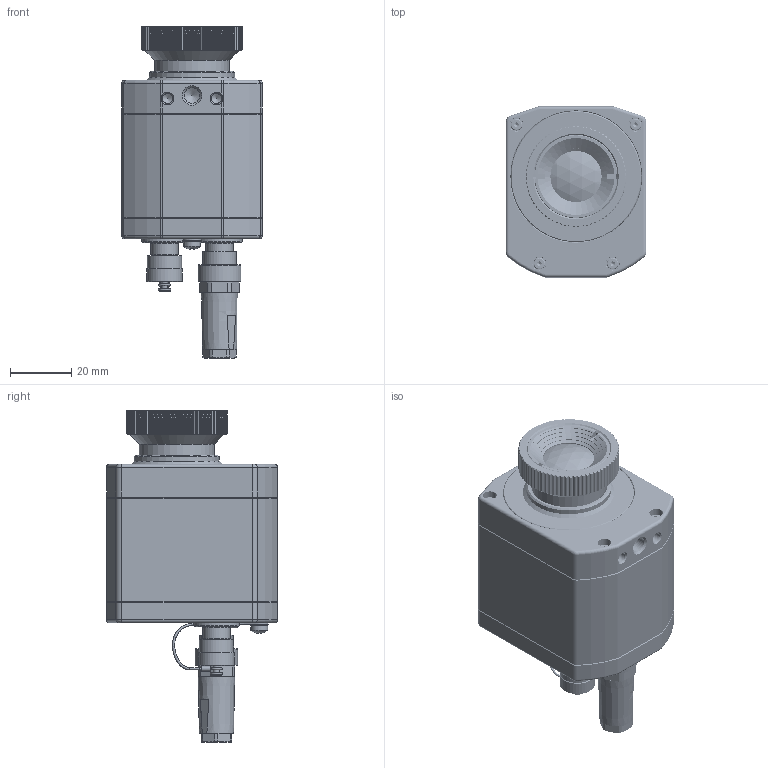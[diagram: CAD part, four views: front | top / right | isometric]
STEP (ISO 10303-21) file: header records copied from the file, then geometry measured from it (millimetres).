
FILE_DESCRIPTION (( 'STEP AP214' ), '1' );
FILE_NAME ('PI-450i2-F5,6.STEP', '2019-12-20T08:46:43', ( 'qwe' ), ( '' ), 'SwSTEP 2.0', 'SolidWorks 2019', '' );
FILE_SCHEMA (( 'AUTOMOTIVE_DESIGN' ));
Length unit declared in the file: millimetre
Products named in the file (25): 51095 Flanschstecker 712; 5-polig; 1P469 Objektivtubus F56-382p17; 51099 Schutzkappe-712 FS_F〉 Pi 640; 63019 O-Ring 19 x 1_O-Ring 16 x 1; 1P202-X Verbindungsrohr-PI3-XXX_1P102-1; 9P468 Objektivgruppe F56-382p17; 61220 Zylinderschraube ISK DIN 912-A2 M2x10_DIN 912 M3 x 5 --- 5S; 1P203-X Heckplatte-PI3-XXX; 51084 Kabeldose 712_4-polig; 61301 Linsenschraube DIN 7985 VZ M3x5_Linsenschraube KS DIN 7985 VZ M3x5; 1P468 Schraubring F56-382p17; 63169-f O-Ring NBR 53 x 1,5; 1R099 Linse2-L5-384-GE; 1P210-4 Objektivhaltering-PI3 M24; PI-450i2-F5,6; 63038 O-Ring 41 x 1_O-Ring 38 x 1,5; 51093 Flanschstecker 712; 5-1polig; 1P470 Linsenring F56-382p17; 54250 Temperaturaufkleber; 63023 O-Ring 23x1_O-Ring 23 x 1; 9P219-X Rückwand PI-3; 1R098 Linse1-L5-384-GE; 61103 Linsenschraube KS DIN 7985 A2 M1,6x4_ISO 7045 - M1.6 x 4 - Z --- 4S; 1P201-X Frontplatte-PI3S-XXX; 63169-ff O-Ring NBR 53 x 1,5
Assembly tree (33 placements, depth 3):
  PI-450i2-F5,6
    1P201-X Frontplatte-PI3S-XXX
    9P219-X Rückwand PI-3
      1P203-X Heckplatte-PI3-XXX
      51093 Flanschstecker 712; 5-1polig
      51095 Flanschstecker 712; 5-polig
      61301 Linsenschraube DIN 7985 VZ M3x5_Linsenschraube KS DIN 7985 VZ M3x5
      54250 Temperaturaufkleber
      51099 Schutzkappe-712 FS_F〉 Pi 640
      63169-f O-Ring NBR 53 x 1,5
    1P202-X Verbindungsrohr-PI3-XXX_1P102-1
    1P210-4 Objektivhaltering-PI3 M24
    61103 Linsenschraube KS DIN 7985 A2 M1,6x4_ISO 7045 - M1.6 x 4 - Z --- 4S  x3
    61220 Zylinderschraube ISK DIN 912-A2 M2x10_DIN 912 M3 x 5 --- 5S  x8
    63038 O-Ring 41 x 1_O-Ring 38 x 1,5
    63169-ff O-Ring NBR 53 x 1,5
    51084 Kabeldose 712_4-polig
    9P468 Objektivgruppe F56-382p17
      1P470 Linsenring F56-382p17
      1P469 Objektivtubus F56-382p17
      1P468 Schraubring F56-382p17
      63023 O-Ring 23x1_O-Ring 23 x 1
      63019 O-Ring 19 x 1_O-Ring 16 x 1
      1R099 Linse2-L5-384-GE
      1R098 Linse1-L5-384-GE
Bounding box: 46 x 56 x 108.75 mm (x, y, z)
Volume: 60287.2 mm3; surface area: 57979.4 mm2
Topology: 31 solids, 42 shells, 2698 faces, 6469 edges, 3914 vertices
Faces by surface type: cylinder 922, cone 888, plane 709, torus 94, bspline 79, sphere 6
Full cylindrical faces by diameter (mm): 0.7 x3, 0.9 x9, 1 x22, 1.25 x5, 1.5 x14, 1.6 x43, 1.7 x3, 2 x145, 2.2 x8, 2.5 x1, 3 x9, 3.2 x3, 3.3 x2, 3.4 x1, 3.8 x8, 4 x1, 4.4 x8, 5.105 x1, 5.5 x1, 5.6 x1, 6 x2, 6.6 x2, 7.9 x2, 8 x3, 8.5 x1, 9 x4, 10 x6, 11 x1, 11.2 x1, 11.6 x1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
Entity records: 76409 total; most frequent: CARTESIAN_POINT 28229, DIRECTION 9671, ORIENTED_EDGE 9091, EDGE_CURVE 4550, AXIS2_PLACEMENT_3D 3914, VERTEX_POINT 3083, EDGE_LOOP 2638, FACE_OUTER_BOUND 2314
